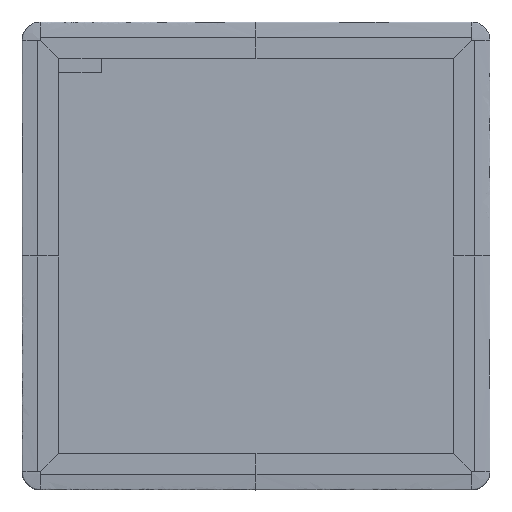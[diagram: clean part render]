
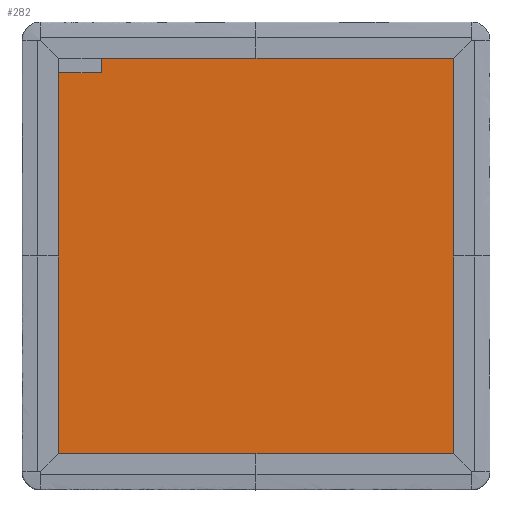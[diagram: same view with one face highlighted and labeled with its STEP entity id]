
A CAD part, front view. The second image highlights one B-rep face of the part: STEP entity #282.
In plain terms, the highlighted planar face has unit normal (0, -1, 0).
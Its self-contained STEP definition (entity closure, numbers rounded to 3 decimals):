
#282=ADVANCED_FACE('',(#1675),#24503,.T.);
#1675=FACE_OUTER_BOUND('',#3072,.T.);
#3072=EDGE_LOOP('',(#5086,#5087,#5088,#5089,#5090,#5091,#5092,#5093,#5094,
#5095));
#5086=ORIENTED_EDGE('',*,*,#12986,.F.);
#5087=ORIENTED_EDGE('',*,*,#12987,.T.);
#5088=ORIENTED_EDGE('',*,*,#12991,.F.);
#5089=ORIENTED_EDGE('',*,*,#12982,.T.);
#5090=ORIENTED_EDGE('',*,*,#12988,.F.);
#5091=ORIENTED_EDGE('',*,*,#12983,.T.);
#5092=ORIENTED_EDGE('',*,*,#12989,.F.);
#5093=ORIENTED_EDGE('',*,*,#12984,.T.);
#5094=ORIENTED_EDGE('',*,*,#12990,.F.);
#5095=ORIENTED_EDGE('',*,*,#12985,.F.);
#12982=EDGE_CURVE('',#21230,#21228,#18925,.T.);
#12983=EDGE_CURVE('',#21227,#21244,#18926,.T.);
#12984=EDGE_CURVE('',#21231,#21250,#18927,.T.);
#12985=EDGE_CURVE('',#21232,#21233,#18928,.T.);
#12986=EDGE_CURVE('',#21234,#21232,#18929,.T.);
#12987=EDGE_CURVE('',#21234,#21263,#18930,.T.);
#12988=EDGE_CURVE('',#21227,#21228,#18931,.T.);
#12989=EDGE_CURVE('',#21231,#21244,#18932,.T.);
#12990=EDGE_CURVE('',#21233,#21250,#18933,.T.);
#12991=EDGE_CURVE('',#21230,#21263,#18934,.T.);
#18925=B_SPLINE_CURVE_WITH_KNOTS('',1,(#36676,#36677),.UNSPECIFIED.,.F.,
 .F.,(2,2),(0.,138.),.UNSPECIFIED.);
#18926=B_SPLINE_CURVE_WITH_KNOTS('',1,(#36678,#36679),.UNSPECIFIED.,.F.,
 .F.,(2,2),(0.,138.),.UNSPECIFIED.);
#18927=B_SPLINE_CURVE_WITH_KNOTS('',1,(#36680,#36681),.UNSPECIFIED.,.F.,
 .F.,(2,2),(-276.,-138.),.UNSPECIFIED.);
#18928=B_SPLINE_CURVE_WITH_KNOTS('',1,(#36682,#36683),.UNSPECIFIED.,.F.,
 .F.,(2,2),(0.,10.),.UNSPECIFIED.);
#18929=B_SPLINE_CURVE_WITH_KNOTS('',1,(#36684,#36685),.UNSPECIFIED.,.F.,
 .F.,(2,2),(0.,30.),.UNSPECIFIED.);
#18930=B_SPLINE_CURVE_WITH_KNOTS('',1,(#36686,#36687),.UNSPECIFIED.,.F.,
 .F.,(2,2),(-266.,-138.),.UNSPECIFIED.);
#18931=B_SPLINE_CURVE_WITH_KNOTS('',1,(#36688,#36689),.UNSPECIFIED.,.F.,
 .F.,(2,2),(-276.,-138.),.UNSPECIFIED.);
#18932=B_SPLINE_CURVE_WITH_KNOTS('',1,(#36690,#36691),.UNSPECIFIED.,.F.,
 .F.,(2,2),(-276.,-138.),.UNSPECIFIED.);
#18933=B_SPLINE_CURVE_WITH_KNOTS('',1,(#36692,#36693),.UNSPECIFIED.,.F.,
 .F.,(2,2),(30.,138.),.UNSPECIFIED.);
#18934=B_SPLINE_CURVE_WITH_KNOTS('',1,(#36694,#36695),.UNSPECIFIED.,.F.,
 .F.,(2,2),(0.,138.),.UNSPECIFIED.);
#21227=VERTEX_POINT('',#34511);
#21228=VERTEX_POINT('',#34512);
#21230=VERTEX_POINT('',#34514);
#21231=VERTEX_POINT('',#34515);
#21232=VERTEX_POINT('',#34516);
#21233=VERTEX_POINT('',#34517);
#21234=VERTEX_POINT('',#34518);
#21244=VERTEX_POINT('',#34528);
#21250=VERTEX_POINT('',#34534);
#21263=VERTEX_POINT('',#34547);
#24503=PLANE('',#25298);
#25298=AXIS2_PLACEMENT_3D('',#26949,#26009,$);
#26009=DIRECTION('',(0.,-1.,0.));
#26949=CARTESIAN_POINT('',(-138.,-32.501,-138.084));
#34511=CARTESIAN_POINT('',(138.,-32.501,-138.084));
#34512=CARTESIAN_POINT('',(0.,-32.501,-138.084));
#34514=CARTESIAN_POINT('',(-138.,-32.501,-138.084));
#34515=CARTESIAN_POINT('',(138.,-32.501,137.916));
#34516=CARTESIAN_POINT('',(-108.,-32.501,127.916));
#34517=CARTESIAN_POINT('',(-108.,-32.501,137.916));
#34518=CARTESIAN_POINT('',(-138.,-32.501,127.916));
#34528=CARTESIAN_POINT('',(138.,-32.501,-0.084));
#34534=CARTESIAN_POINT('',(0.,-32.501,137.916));
#34547=CARTESIAN_POINT('',(-138.,-32.501,-0.084));
#36676=CARTESIAN_POINT('',(-138.,-32.501,-138.084));
#36677=CARTESIAN_POINT('',(0.,-32.501,-138.084));
#36678=CARTESIAN_POINT('',(138.,-32.501,-138.084));
#36679=CARTESIAN_POINT('',(138.,-32.501,-0.084));
#36680=CARTESIAN_POINT('',(138.,-32.501,137.916));
#36681=CARTESIAN_POINT('',(0.,-32.501,137.916));
#36682=CARTESIAN_POINT('',(-108.,-32.501,127.916));
#36683=CARTESIAN_POINT('',(-108.,-32.501,137.916));
#36684=CARTESIAN_POINT('',(-138.,-32.501,127.916));
#36685=CARTESIAN_POINT('',(-108.,-32.501,127.916));
#36686=CARTESIAN_POINT('',(-138.,-32.501,127.916));
#36687=CARTESIAN_POINT('',(-138.,-32.501,-0.084));
#36688=CARTESIAN_POINT('',(138.,-32.501,-138.084));
#36689=CARTESIAN_POINT('',(0.,-32.501,-138.084));
#36690=CARTESIAN_POINT('',(138.,-32.501,137.916));
#36691=CARTESIAN_POINT('',(138.,-32.501,-0.084));
#36692=CARTESIAN_POINT('',(-108.,-32.501,137.916));
#36693=CARTESIAN_POINT('',(0.,-32.501,137.916));
#36694=CARTESIAN_POINT('',(-138.,-32.501,-138.084));
#36695=CARTESIAN_POINT('',(-138.,-32.501,-0.084));
